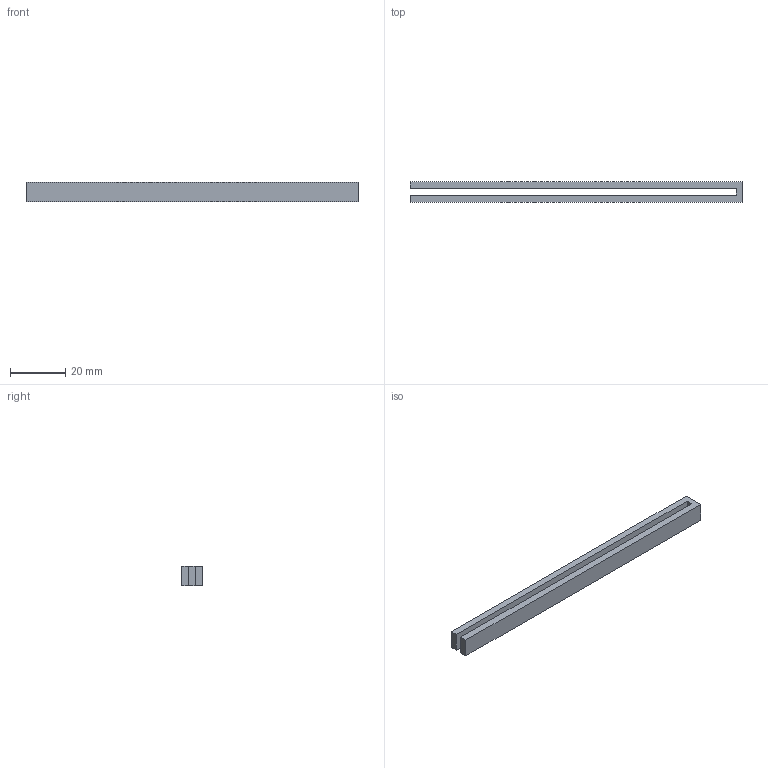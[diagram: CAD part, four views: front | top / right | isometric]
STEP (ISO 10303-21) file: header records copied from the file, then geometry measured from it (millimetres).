
FILE_DESCRIPTION(('FreeCAD Model'),'2;1');
FILE_NAME('Open CASCADE Shape Model','2023-12-15T11:10:25',('Author'),( ''),'Open CASCADE STEP processor 7.5','FreeCAD','Unknown');
FILE_SCHEMA(('AUTOMOTIVE_DESIGN { 1 0 10303 214 1 1 1 1 }'));
Length unit declared in the file: millimetre
Products named in the file (1): Pocket
Bounding box: 120 x 7.45 x 7 mm (x, y, z)
Volume: 4316.9 mm3; surface area: 4669.7 mm2
Topology: 1 solids, 1 shells, 10 faces, 24 edges, 16 vertices
Faces by surface type: plane 10
Entity records: 616 total; most frequent: CARTESIAN_POINT 105, DIRECTION 88, LINE 66, VECTOR 66, ORIENTED_EDGE 48, PCURVE 48, DEFINITIONAL_REPRESENTATION 48, EDGE_CURVE 24
